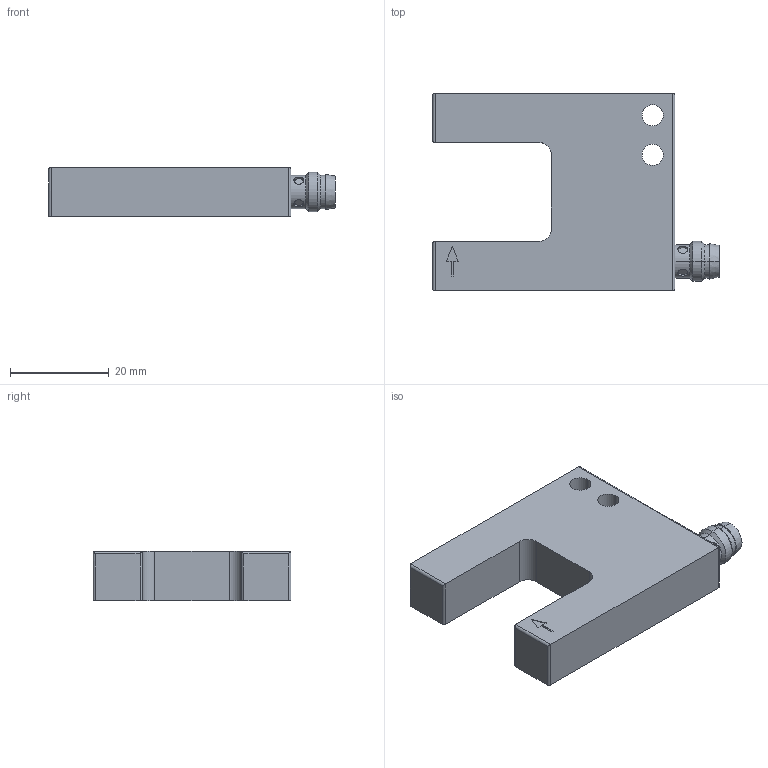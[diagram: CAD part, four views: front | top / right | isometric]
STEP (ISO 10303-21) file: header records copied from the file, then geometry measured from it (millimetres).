
FILE_DESCRIPTION( ( '' ), '1' );
FILE_NAME( 'W:/supplier/sBalluff/documents/step/BALLUFF BGL 20A-005-S49(ROT=0).stp', '2010-02-23T12:15:34', ( '' ), ( '' ), ' ', ' ', ' ' );
FILE_SCHEMA( ( 'CONFIG_CONTROL_DESIGN' ) );
Length unit declared in the file: millimetre
Products named in the file (1): 1
Bounding box: 58 x 40 x 10 mm (x, y, z)
Volume: 14744.7 mm3; surface area: 5763.8 mm2
Topology: 1 solids, 1 shells, 96 faces, 225 edges, 136 vertices
Faces by surface type: cylinder 49, plane 35, cone 6, sphere 6
Entity records: 2842 total; most frequent: CARTESIAN_POINT 586, DIRECTION 492, ORIENTED_EDGE 426, EDGE_CURVE 213, AXIS2_PLACEMENT_3D 190, VERTEX_POINT 136, EDGE_LOOP 117, LINE 112
